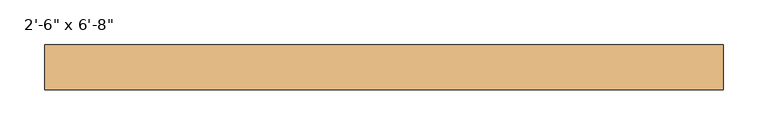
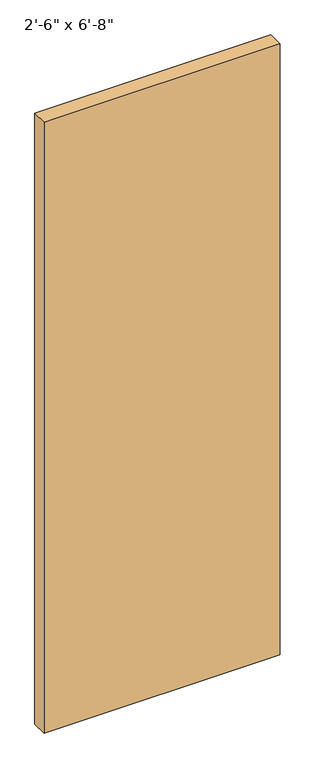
"""IFC4 building model written with IfcOpenShell, lengths in millimetres: door geometry."""

from ifc_helpers import new_model, si_unit, origin, origin_with_axes, place, context, project, spatial, polyline, outline, extrude, source, transform, mapped, element, save


def door_f847712d(model_context):
    return source(origin(), model_context, "Body", "SweptSolid", [
        extrude(outline(polyline([(381.0, -31.55), (381.0, -82.55), (-381.0, -82.55), (-381.0, -31.55), (381.0, -31.55)])), origin_with_axes(), (0.0, 0.0, 1.0), 2082.8),
    ])


if __name__ == "__main__":
    model = new_model("IFC4")
    model_context = context("Model", 3, world=origin())
    ifc_project = project(units=[si_unit("LENGTHUNIT", "METRE", prefix="MILLI")], contexts=[model_context])
    site = spatial("IfcSite", under=ifc_project)
    building = spatial("IfcBuilding", under=site)
    placement = place(None, origin())
    door_shape = door_f847712d(model_context)
    element("IfcDoor", 1, ObjectType="Planitar - Single Door_Flush Panel : 2'-6\" x 6'-8\"", at=placement, inside=building, context=model_context, shape_type="MappedRepresentation", body=[
        mapped(door_shape, transform((0.0, 0.0, 0.0), x_axis=(1.0, 0.0, 0.0), y_axis=(0.0, 1.0, 0.0), z_axis=(0.0, 0.0, 1.0))),
    ])
    save(model, "model.ifc")
